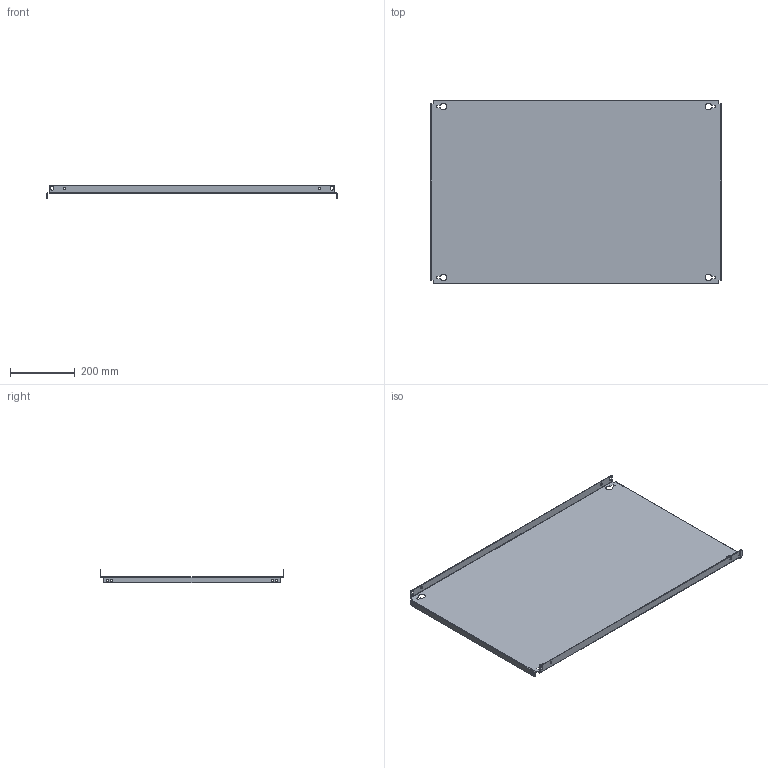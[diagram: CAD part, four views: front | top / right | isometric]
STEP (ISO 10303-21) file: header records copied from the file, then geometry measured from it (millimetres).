
FILE_DESCRIPTION (( 'STEP AP203' ), '1' );
FILE_NAME ('R5PPS6010.STEP', '2021-12-20T07:05:49', ( '' ), ( '' ), 'SwSTEP 2.0', 'SolidWorks 2020', '' );
FILE_SCHEMA (( 'CONFIG_CONTROL_DESIGN' ));
Length unit declared in the file: millimetre
Products named in the file (1): R5PPS6010
Bounding box: 900 x 569 x 43 mm (x, y, z)
Volume: 1136215.6 mm3; surface area: 1143918.6 mm2
Topology: 1 solids, 1 shells, 132 faces, 358 edges, 228 vertices
Faces by surface type: cylinder 74, plane 58
Entity records: 4331 total; most frequent: DIRECTION 772, CARTESIAN_POINT 719, ORIENTED_EDGE 716, EDGE_CURVE 358, AXIS2_PLACEMENT_3D 281, VERTEX_POINT 228, VECTOR 210, LINE 210
